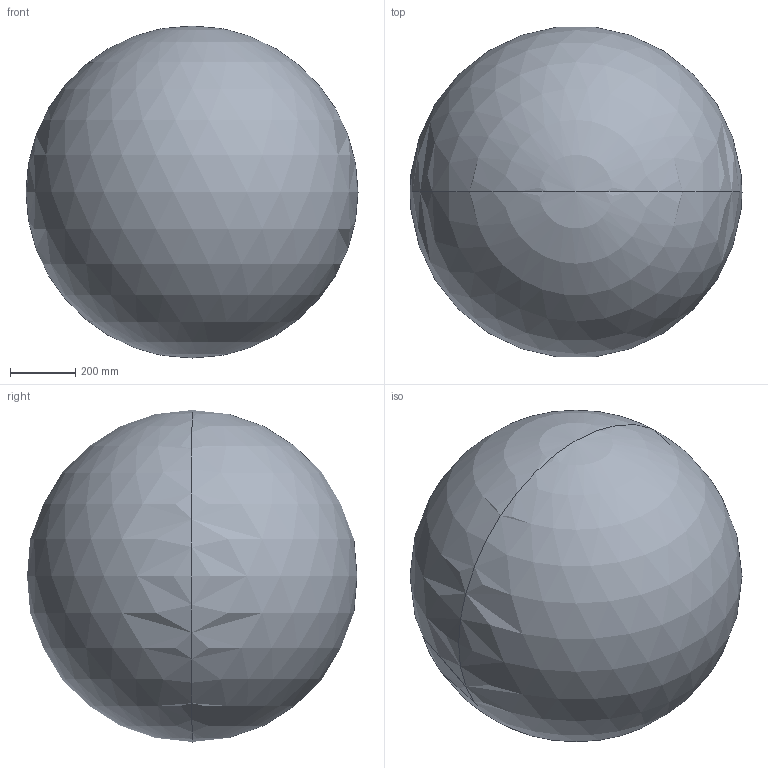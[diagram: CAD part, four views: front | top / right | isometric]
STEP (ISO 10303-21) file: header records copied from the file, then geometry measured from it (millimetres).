
FILE_DESCRIPTION((''),'2;1');
FILE_NAME('C:\Documents and Settings\Owner\Desktop\FirstCadLibrary Transfer\2008 Ball.stp','2008-01-09T21:40:29',('Owner'),(''),'Autodesk Inventor (R) 6.0','Autodesk Inventor (R) 6.0','');
FILE_SCHEMA(('AUTOMOTIVE_DESIGN { 1 0 10303 214 1 1 1 1 }'));
Length unit declared in the file: inch
Products named in the file (1): 2008 Ball
Bounding box: 1016 x 1009.61 x 1016 mm (x, y, z)
Volume: 549135785.3 mm3; surface area: 3242927.9 mm2
Topology: 1 solids, 1 shells, 2 faces, 6 edges, 2 vertices
Faces by surface type: sphere 2
Entity records: 59 total; most frequent: DIRECTION 8, CARTESIAN_POINT 5, AXIS2_PLACEMENT_3D 4, DIMENSIONAL_EXPONENTS 2, SPHERICAL_SURFACE 2, ORIENTED_EDGE 2, EDGE_LOOP 2, FACE_OUTER_BOUND 2
